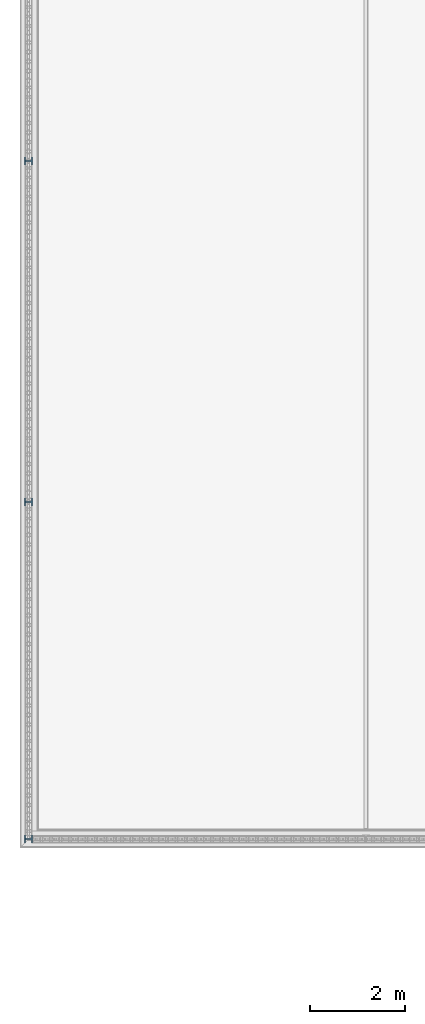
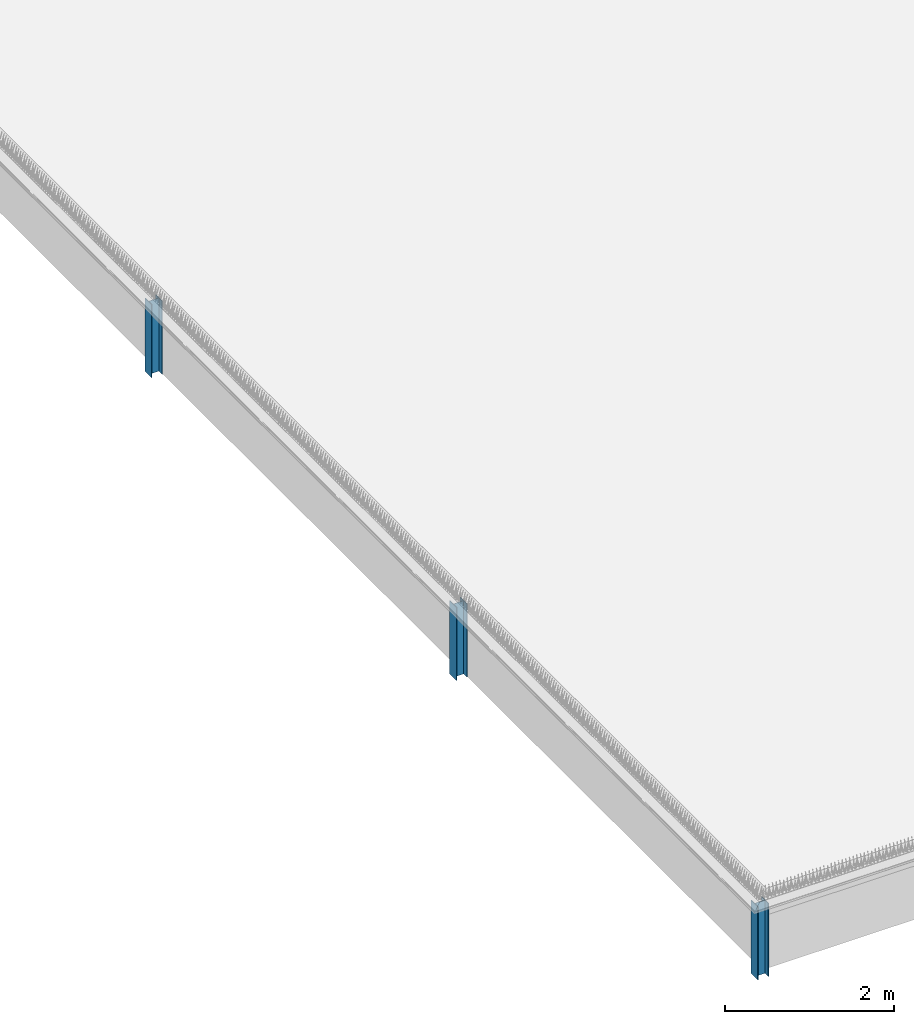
# One storey, part 3 of 81: 3 columns.
"""IFC2X3 building model written with IfcOpenShell, lengths in millimetres."""

from ifc_helpers import new_model, entity, si_unit, converted_unit, derived_unit, money_unit, direction, frame, origin_with_axes, place, context, subcontext, project, spatial, faceted_brep, material, type_object, element, save


model = new_model("IFC2X3")

# Units and contexts
model_context = context("Model", 3, precision=0.01, world=origin_with_axes(), true_north=direction((0.0, 1.0)))
body_context = subcontext(model_context, "Body", "Model", "MODEL_VIEW")
ifc_project = project(units=[si_unit("LENGTHUNIT", "METRE", prefix="MILLI"), si_unit("AREAUNIT", "SQUARE_METRE"), si_unit("VOLUMEUNIT", "CUBIC_METRE"), converted_unit("PLANEANGLEUNIT", "DEGREE", entity("IfcPlaneAngleMeasure", 0.0174532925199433), si_unit("PLANEANGLEUNIT", "RADIAN"), dimensions=[0, 0, 0, 0, 0, 0, 0]), money_unit("EUR"), converted_unit("TIMEUNIT", "Year", entity("IfcTimeMeasure", 31557600.0), si_unit("TIMEUNIT", "SECOND"), dimensions=[0, 0, 1, 0, 0, 0, 0]), si_unit("MASSUNIT", "GRAM", prefix="KILO"), si_unit("THERMODYNAMICTEMPERATUREUNIT", "DEGREE_CELSIUS"), si_unit("LUMINOUSINTENSITYUNIT", "LUMEN"), si_unit("ENERGYUNIT", "JOULE", prefix="MEGA"), derived_unit("THERMALCONDUCTANCEUNIT", [(si_unit("POWERUNIT", "WATT"), 1), (si_unit("LENGTHUNIT", "METRE"), -1), (si_unit("THERMODYNAMICTEMPERATUREUNIT", "KELVIN"), -1)]), derived_unit("SPECIFICHEATCAPACITYUNIT", [(si_unit("ENERGYUNIT", "JOULE"), 1), (si_unit("MASSUNIT", "GRAM", prefix="KILO"), -1), (si_unit("THERMODYNAMICTEMPERATUREUNIT", "KELVIN"), -1)]), derived_unit("MASSDENSITYUNIT", [(si_unit("MASSUNIT", "GRAM", prefix="KILO"), 1), (si_unit("VOLUMEUNIT", "CUBIC_METRE"), -1)])], contexts=[model_context])

# Site, building, storey
site_placement = place(None, origin_with_axes())
site = spatial("IfcSite", under=ifc_project, at=site_placement, Name="Site", CompositionType="ELEMENT")
building_placement = place(site_placement, origin_with_axes())
building = spatial("IfcBuilding", under=site, at=building_placement, Name="Naam gebouw", CompositionType="ELEMENT")
storey_placement = place(building_placement, frame((0.0, 0.0, 15320.0), z_axis=(0.0, 0.0, 1.0), x_axis=(1.0, 0.0, 0.0)))
storey = spatial("IfcBuildingStorey", under=building, at=storey_placement, Name="01 dak", CompositionType="ELEMENT", Elevation=15320.0)

# Columns
ifc_material = material(Name="Metaal - Staal C")
column_type = type_object("IfcColumnType", Name="HEA160 160 x 152", PredefinedType="COLUMN")
for number, where, z_axis, x_axis, name in (
    (1, (25376.0, 37200.0, -400.0393597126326), (0.0, 0.0, 1.0), (0.0, 1.0, 0.0), "HEA160"),
    (2, (25376.0, 44400.00000000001, -400.0393597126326), (0.0, 0.0, 1.0), (0.0, 1.0, 0.0), "HEA160"),
    (3, (25376.0, 30080.0, -400.0393597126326), (0.0, 0.0, 1.0), (0.0, 1.0, 0.0), "HEA160"),
):
    element("IfcColumn", number, at=place(storey_placement, frame(where, z_axis=z_axis, x_axis=x_axis)), inside=storey, type_object=column_type, material=ifc_material, Name=name, ObjectType="COLUMN", context=body_context, shape_type="Brep", body=[
        faceted_brep([(-79.9999999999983, 76.00000000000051, 1055.0), (-79.9999999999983, 76.00000000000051, 0.0), (-79.9999999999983, 67.00000000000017, 0.0), (-79.9999999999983, 67.00000000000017, 1055.0), (79.9999999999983, 76.00000000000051, 1055.0), (79.9999999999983, 76.00000000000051, 0.0), (79.9999999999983, 67.00000000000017, 0.0), (3.000000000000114, 67.00000000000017, 0.0), (3.000000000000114, -67.00000000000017, 0.0), (79.9999999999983, -67.00000000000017, 0.0), (79.9999999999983, -76.00000000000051, 0.0), (-79.9999999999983, -76.00000000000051, 0.0), (-79.9999999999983, -67.00000000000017, 0.0), (-3.000000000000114, -67.00000000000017, 0.0), (-3.000000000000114, 67.00000000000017, 0.0), (-3.000000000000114, 67.00000000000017, 1055.0), (-3.000000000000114, -67.00000000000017, 1055.0), (-79.9999999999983, -67.00000000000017, 1055.0), (-79.9999999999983, -76.00000000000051, 1055.0), (79.9999999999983, -76.00000000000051, 1055.0), (79.9999999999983, -67.00000000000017, 1055.0), (3.000000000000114, -67.00000000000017, 1055.0), (3.000000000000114, 67.00000000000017, 1055.0), (79.9999999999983, 67.00000000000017, 1055.0)], [[[0, 1, 2, 3]], [[4, 5, 1, 0]], [[2, 1, 5, 6, 7, 8, 9, 10, 11, 12, 13, 14]], [[3, 2, 14, 15]], [[4, 0, 3, 15, 16, 17, 18, 19, 20, 21, 22, 23]], [[23, 6, 5, 4]], [[22, 7, 6, 23]], [[21, 8, 7, 22]], [[20, 9, 8, 21]], [[19, 10, 9, 20]], [[18, 11, 10, 19]], [[17, 12, 11, 18]], [[16, 13, 12, 17]], [[15, 14, 13, 16]]]),
    ])

save(model, "model.ifc")
